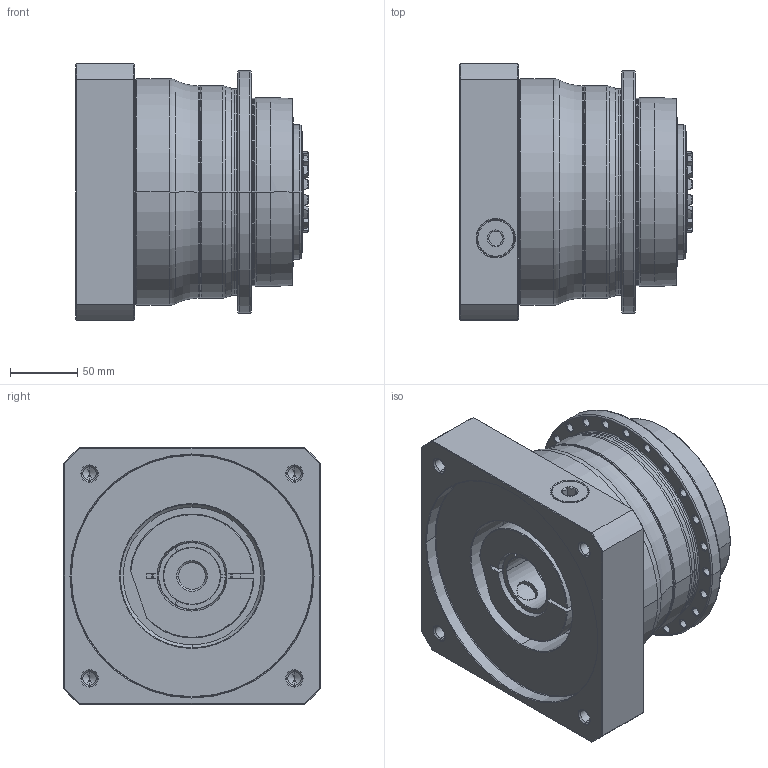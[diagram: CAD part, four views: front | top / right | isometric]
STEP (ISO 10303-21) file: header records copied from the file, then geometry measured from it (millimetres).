
FILE_DESCRIPTION((''),'2;1');
FILE_NAME('APC140_1ST_42-P0409A00201_ASM','2018-06-27T',('d01226'),(''),'PRO/ENGINEER BY PARAMETRIC TECHNOLOGY CORPORATION, 2008410','PRO/ENGINEER BY PARAMETRIC TECHNOLOGY CORPORATION, 2008410','');
FILE_SCHEMA(('CONFIG_CONTROL_DESIGN'));
Length unit declared in the file: millimetre
Products named in the file (9): P0278501003; P03595D0103; P1318510501; P0503A00012; P0912505001; P1211500001; P0409A00201; 21711422019; APC140_1ST_42-P0409A00201_ASM
Assembly tree (8 placements, depth 2):
  APC140_1ST_42-P0409A00201_ASM
    P0278501003
    P03595D0103
    P1318510501
    P0503A00012
    P0912505001
    P1211500001
    P0409A00201
    21711422019
Bounding box: 172.1 x 190 x 190 mm (x, y, z)
Volume: 3250304.7 mm3; surface area: 396803.5 mm2
Topology: 9 solids, 19 shells, 675 faces, 1621 edges, 987 vertices
Faces by surface type: cone 228, cylinder 210, plane 123, torus 100, bspline 14
Entity records: 24868 total; most frequent: CARTESIAN_POINT 8734, DIRECTION 3609, ORIENTED_EDGE 3164, EDGE_CURVE 1603, AXIS2_PLACEMENT_3D 1565, VERTEX_POINT 987, CIRCLE 877, EDGE_LOOP 780
